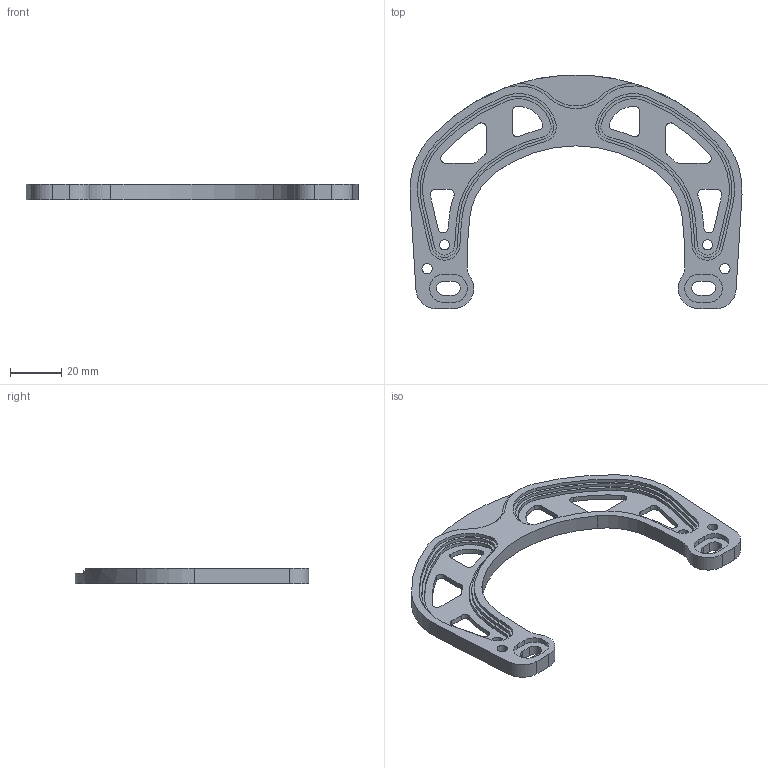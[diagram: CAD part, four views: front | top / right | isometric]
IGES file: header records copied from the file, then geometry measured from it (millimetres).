
Start section: IGES file generated from Kompas f.0 for Windows drawing by the IGES translator from Ascon Ltd., translator version IGESOUT-5.1.
Global section: file name: C:\Users\Urasik\Desktop\Verzin\Áóñòåð 2á Verzin\Áóñòåð 2á SL.igs; native system: Kompas( 32 bit ) for Windows; preprocessor: 1.0; author: unknown; organization: ASCON; date: -17861001:121210; units: millimetre
Bounding box: 129.76 x 91.29 x 6 mm (x, y, z)
Volume: 19425.3 mm3; surface area: 14761.8 mm2
Topology: 1 solids, 1 shells, 159 faces, 447 edges, 298 vertices
Faces by surface type: revolution 119, bspline 40
